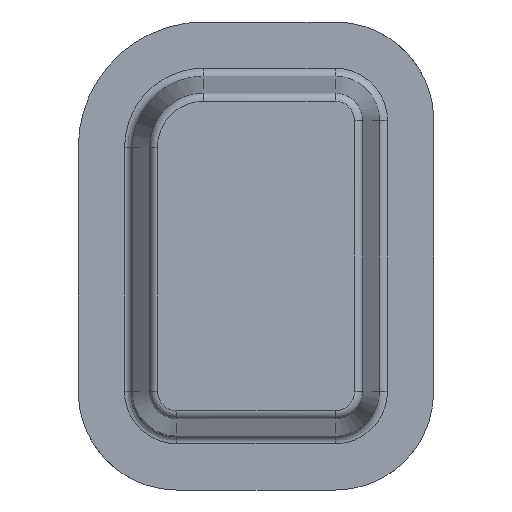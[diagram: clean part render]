
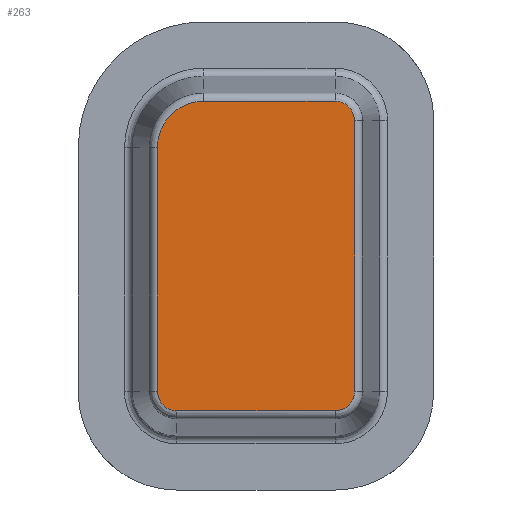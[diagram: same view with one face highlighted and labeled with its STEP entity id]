
A CAD part, front view. The second image highlights one B-rep face of the part: STEP entity #263.
In plain terms, the highlighted planar face has unit normal (0, -1, 0).
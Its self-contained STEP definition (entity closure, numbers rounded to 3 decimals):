
#144=CARTESIAN_POINT('Axis2P3D Location',(40.58,0.,59.42)) ;
#149=CARTESIAN_POINT('Line Origine',(2.749,0.,55.5)) ;
#153=CARTESIAN_POINT('Vertex',(2.749,0.,101.)) ;
#155=CARTESIAN_POINT('Vertex',(2.749,0.,10.)) ;
#159=CARTESIAN_POINT('Control Point',(2.749,0.,10.)) ;
#160=CARTESIAN_POINT('Control Point',(2.749,0.,9.039)) ;
#161=CARTESIAN_POINT('Control Point',(2.908,0.,8.077)) ;
#162=CARTESIAN_POINT('Control Point',(3.227,0.,7.153)) ;
#163=CARTESIAN_POINT('Control Point',(4.157,0.,5.443)) ;
#164=CARTESIAN_POINT('Control Point',(5.588,0.,4.125)) ;
#165=CARTESIAN_POINT('Control Point',(6.407,0.,3.591)) ;
#166=CARTESIAN_POINT('Control Point',(7.616,0.,3.065)) ;
#167=CARTESIAN_POINT('Control Point',(8.897,0.,2.821)) ;
#168=CARTESIAN_POINT('Control Point',(9.236,0.,2.777)) ;
#169=CARTESIAN_POINT('Control Point',(9.593,0.,2.752)) ;
#170=CARTESIAN_POINT('Control Point',(9.95,0.,2.749)) ;
#171=CARTESIAN_POINT('Control Point',(9.967,0.,2.749)) ;
#172=CARTESIAN_POINT('Control Point',(9.983,0.,2.749)) ;
#173=CARTESIAN_POINT('Control Point',(10.,0.,2.749)) ;
#174=CARTESIAN_POINT('Vertex',(10.,0.,2.749)) ;
#177=CARTESIAN_POINT('Line Origine',(39.5,0.,2.749)) ;
#181=CARTESIAN_POINT('Vertex',(69.,0.,2.749)) ;
#185=CARTESIAN_POINT('Control Point',(69.,0.,2.749)) ;
#186=CARTESIAN_POINT('Control Point',(69.961,0.,2.749)) ;
#187=CARTESIAN_POINT('Control Point',(70.923,0.,2.908)) ;
#188=CARTESIAN_POINT('Control Point',(71.847,0.,3.227)) ;
#189=CARTESIAN_POINT('Control Point',(73.557,0.,4.157)) ;
#190=CARTESIAN_POINT('Control Point',(74.875,0.,5.588)) ;
#191=CARTESIAN_POINT('Control Point',(75.409,0.,6.407)) ;
#192=CARTESIAN_POINT('Control Point',(75.935,0.,7.616)) ;
#193=CARTESIAN_POINT('Control Point',(76.179,0.,8.897)) ;
#194=CARTESIAN_POINT('Control Point',(76.223,0.,9.236)) ;
#195=CARTESIAN_POINT('Control Point',(76.248,0.,9.593)) ;
#196=CARTESIAN_POINT('Control Point',(76.251,0.,9.95)) ;
#197=CARTESIAN_POINT('Control Point',(76.251,0.,9.967)) ;
#198=CARTESIAN_POINT('Control Point',(76.251,0.,9.983)) ;
#199=CARTESIAN_POINT('Control Point',(76.251,0.,10.)) ;
#200=CARTESIAN_POINT('Vertex',(76.251,0.,10.)) ;
#203=CARTESIAN_POINT('Line Origine',(76.251,0.,60.5)) ;
#207=CARTESIAN_POINT('Vertex',(76.251,0.,111.)) ;
#211=CARTESIAN_POINT('Control Point',(76.251,0.,111.)) ;
#212=CARTESIAN_POINT('Control Point',(76.251,0.,111.961)) ;
#213=CARTESIAN_POINT('Control Point',(76.092,0.,112.923)) ;
#214=CARTESIAN_POINT('Control Point',(75.773,0.,113.847)) ;
#215=CARTESIAN_POINT('Control Point',(74.843,0.,115.557)) ;
#216=CARTESIAN_POINT('Control Point',(73.412,0.,116.875)) ;
#217=CARTESIAN_POINT('Control Point',(72.593,0.,117.409)) ;
#218=CARTESIAN_POINT('Control Point',(71.384,0.,117.935)) ;
#219=CARTESIAN_POINT('Control Point',(70.103,0.,118.179)) ;
#220=CARTESIAN_POINT('Control Point',(69.764,0.,118.223)) ;
#221=CARTESIAN_POINT('Control Point',(69.407,0.,118.248)) ;
#222=CARTESIAN_POINT('Control Point',(69.05,0.,118.251)) ;
#223=CARTESIAN_POINT('Control Point',(69.033,0.,118.251)) ;
#224=CARTESIAN_POINT('Control Point',(69.017,0.,118.251)) ;
#225=CARTESIAN_POINT('Control Point',(69.,0.,118.251)) ;
#226=CARTESIAN_POINT('Vertex',(69.,0.,118.251)) ;
#229=CARTESIAN_POINT('Line Origine',(44.5,0.,118.251)) ;
#233=CARTESIAN_POINT('Vertex',(20.,0.,118.251)) ;
#237=CARTESIAN_POINT('Control Point',(20.,0.,118.251)) ;
#238=CARTESIAN_POINT('Control Point',(18.077,0.,118.251)) ;
#239=CARTESIAN_POINT('Control Point',(16.154,0.,117.983)) ;
#240=CARTESIAN_POINT('Control Point',(14.282,0.,117.447)) ;
#241=CARTESIAN_POINT('Control Point',(10.736,0.,115.869)) ;
#242=CARTESIAN_POINT('Control Point',(7.758,0.,113.383)) ;
#243=CARTESIAN_POINT('Control Point',(6.452,0.,111.939)) ;
#244=CARTESIAN_POINT('Control Point',(4.494,0.,109.046)) ;
#245=CARTESIAN_POINT('Control Point',(3.314,0.,105.769)) ;
#246=CARTESIAN_POINT('Control Point',(2.954,0.,104.26)) ;
#247=CARTESIAN_POINT('Control Point',(2.762,0.,102.686)) ;
#248=CARTESIAN_POINT('Control Point',(2.749,0.,101.11)) ;
#249=CARTESIAN_POINT('Control Point',(2.749,0.,101.073)) ;
#250=CARTESIAN_POINT('Control Point',(2.749,0.,101.037)) ;
#251=CARTESIAN_POINT('Control Point',(2.749,0.,101.)) ;
#145=DIRECTION('Axis2P3D Direction',(0.,-1.,0.)) ;
#146=DIRECTION('Axis2P3D XDirection',(0.066,0.,0.998)) ;
#150=DIRECTION('Vector Direction',(0.,0.,1.)) ;
#178=DIRECTION('Vector Direction',(1.,0.,0.)) ;
#204=DIRECTION('Vector Direction',(0.,0.,1.)) ;
#230=DIRECTION('Vector Direction',(-1.,0.,0.)) ;
#147=AXIS2_PLACEMENT_3D('Plane Axis2P3D',#144,#145,#146) ;
#254=ORIENTED_EDGE('',*,*,#157,.T.) ;
#255=ORIENTED_EDGE('',*,*,#176,.T.) ;
#256=ORIENTED_EDGE('',*,*,#183,.T.) ;
#257=ORIENTED_EDGE('',*,*,#202,.T.) ;
#258=ORIENTED_EDGE('',*,*,#209,.T.) ;
#259=ORIENTED_EDGE('',*,*,#228,.T.) ;
#260=ORIENTED_EDGE('',*,*,#235,.T.) ;
#261=ORIENTED_EDGE('',*,*,#252,.T.) ;
#151=VECTOR('Line Direction',#150,1.) ;
#179=VECTOR('Line Direction',#178,1.) ;
#205=VECTOR('Line Direction',#204,1.) ;
#231=VECTOR('Line Direction',#230,1.) ;
#263=ADVANCED_FACE('base',(#262),#148,.T.) ;
#158=B_SPLINE_CURVE_WITH_KNOTS('',5,(#159,#160,#161,#162,#163,#164,#165,#166,#167,#168,#169,#170,#171,#172,#173),.UNSPECIFIED.,.F.,.U.,(6,3,3,3,6),(29.94,40.287,50.64,54.308,54.486),.UNSPECIFIED.) ;
#184=B_SPLINE_CURVE_WITH_KNOTS('',5,(#185,#186,#187,#188,#189,#190,#191,#192,#193,#194,#195,#196,#197,#198,#199),.UNSPECIFIED.,.F.,.U.,(6,3,3,3,6),(29.94,40.287,50.64,54.307,54.486),.UNSPECIFIED.) ;
#210=B_SPLINE_CURVE_WITH_KNOTS('',5,(#211,#212,#213,#214,#215,#216,#217,#218,#219,#220,#221,#222,#223,#224,#225),.UNSPECIFIED.,.F.,.U.,(6,3,3,3,6),(29.94,40.287,50.64,54.307,54.486),.UNSPECIFIED.) ;
#236=B_SPLINE_CURVE_WITH_KNOTS('',5,(#237,#238,#239,#240,#241,#242,#243,#244,#245,#246,#247,#248,#249,#250,#251),.UNSPECIFIED.,.F.,.U.,(6,3,3,3,6),(41.973,58.287,74.621,87.679,87.989),.UNSPECIFIED.) ;
#157=EDGE_CURVE('',#154,#156,#152,.F.) ;
#176=EDGE_CURVE('',#156,#175,#158,.T.) ;
#183=EDGE_CURVE('',#175,#182,#180,.T.) ;
#202=EDGE_CURVE('',#182,#201,#184,.T.) ;
#209=EDGE_CURVE('',#201,#208,#206,.T.) ;
#228=EDGE_CURVE('',#208,#227,#210,.T.) ;
#235=EDGE_CURVE('',#227,#234,#232,.T.) ;
#252=EDGE_CURVE('',#234,#154,#236,.T.) ;
#253=EDGE_LOOP('',(#254,#255,#256,#257,#258,#259,#260,#261)) ;
#262=FACE_OUTER_BOUND('',#253,.T.) ;
#152=LINE('Line',#149,#151) ;
#180=LINE('Line',#177,#179) ;
#206=LINE('Line',#203,#205) ;
#232=LINE('Line',#229,#231) ;
#148=PLANE('',#147) ;
#154=VERTEX_POINT('',#153) ;
#156=VERTEX_POINT('',#155) ;
#175=VERTEX_POINT('',#174) ;
#182=VERTEX_POINT('',#181) ;
#201=VERTEX_POINT('',#200) ;
#208=VERTEX_POINT('',#207) ;
#227=VERTEX_POINT('',#226) ;
#234=VERTEX_POINT('',#233) ;
